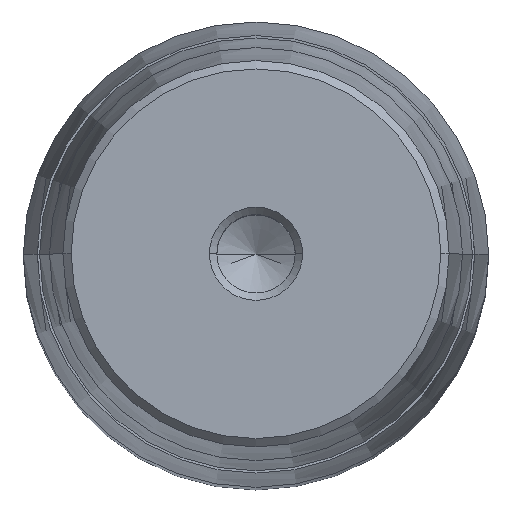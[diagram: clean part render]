
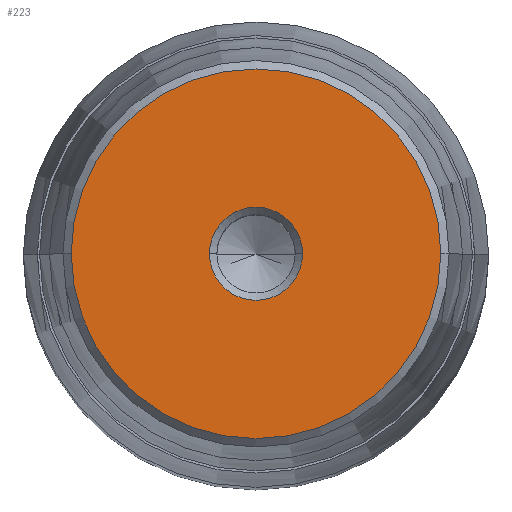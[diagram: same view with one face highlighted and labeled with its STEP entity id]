
A CAD part, top view. The second image highlights one B-rep face of the part: STEP entity #223.
In plain terms, the highlighted planar face has unit normal (0, 0, 1).
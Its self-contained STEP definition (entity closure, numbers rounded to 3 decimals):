
#148=CARTESIAN_POINT('Axis2P3D Location',(0.,0.,69.)) ;
#152=CARTESIAN_POINT('Vertex',(-6.,0.,69.)) ;
#154=CARTESIAN_POINT('Vertex',(6.,0.,69.)) ;
#191=CARTESIAN_POINT('Axis2P3D Location',(0.,6.,69.)) ;
#196=CARTESIAN_POINT('Axis2P3D Location',(0.,0.,69.)) ;
#200=CARTESIAN_POINT('Vertex',(-23.825,0.,69.)) ;
#202=CARTESIAN_POINT('Vertex',(23.825,0.,69.)) ;
#205=CARTESIAN_POINT('Axis2P3D Location',(0.,0.,69.)) ;
#214=CARTESIAN_POINT('Axis2P3D Location',(0.,0.,69.)) ;
#149=DIRECTION('Axis2P3D Direction',(0.,-0.,1.)) ;
#192=DIRECTION('Axis2P3D Direction',(0.,0.,-1.)) ;
#193=DIRECTION('Axis2P3D XDirection',(-1.,0.,0.)) ;
#197=DIRECTION('Axis2P3D Direction',(0.,0.,-1.)) ;
#206=DIRECTION('Axis2P3D Direction',(0.,0.,-1.)) ;
#215=DIRECTION('Axis2P3D Direction',(0.,0.,-1.)) ;
#150=AXIS2_PLACEMENT_3D('Circle Axis2P3D',#148,#149,$) ;
#194=AXIS2_PLACEMENT_3D('Plane Axis2P3D',#191,#192,#193) ;
#198=AXIS2_PLACEMENT_3D('Circle Axis2P3D',#196,#197,$) ;
#207=AXIS2_PLACEMENT_3D('Circle Axis2P3D',#205,#206,$) ;
#216=AXIS2_PLACEMENT_3D('Circle Axis2P3D',#214,#215,$) ;
#211=ORIENTED_EDGE('',*,*,#204,.F.) ;
#212=ORIENTED_EDGE('',*,*,#209,.F.) ;
#220=ORIENTED_EDGE('',*,*,#218,.T.) ;
#221=ORIENTED_EDGE('',*,*,#156,.T.) ;
#222=FACE_BOUND('',#219,.T.) ;
#223=ADVANCED_FACE('722-60x224x275',(#213,#222),#195,.F.) ;
#151=CIRCLE('generated circle',#150,6.) ;
#199=CIRCLE('generated circle',#198,23.825) ;
#208=CIRCLE('generated circle',#207,23.825) ;
#217=CIRCLE('generated circle',#216,6.) ;
#156=EDGE_CURVE('',#153,#155,#151,.F.) ;
#204=EDGE_CURVE('',#201,#203,#199,.T.) ;
#209=EDGE_CURVE('',#203,#201,#208,.T.) ;
#218=EDGE_CURVE('',#155,#153,#217,.T.) ;
#210=EDGE_LOOP('',(#211,#212)) ;
#219=EDGE_LOOP('',(#220,#221)) ;
#213=FACE_OUTER_BOUND('',#210,.T.) ;
#195=PLANE('Plane',#194) ;
#153=VERTEX_POINT('',#152) ;
#155=VERTEX_POINT('',#154) ;
#201=VERTEX_POINT('',#200) ;
#203=VERTEX_POINT('',#202) ;
